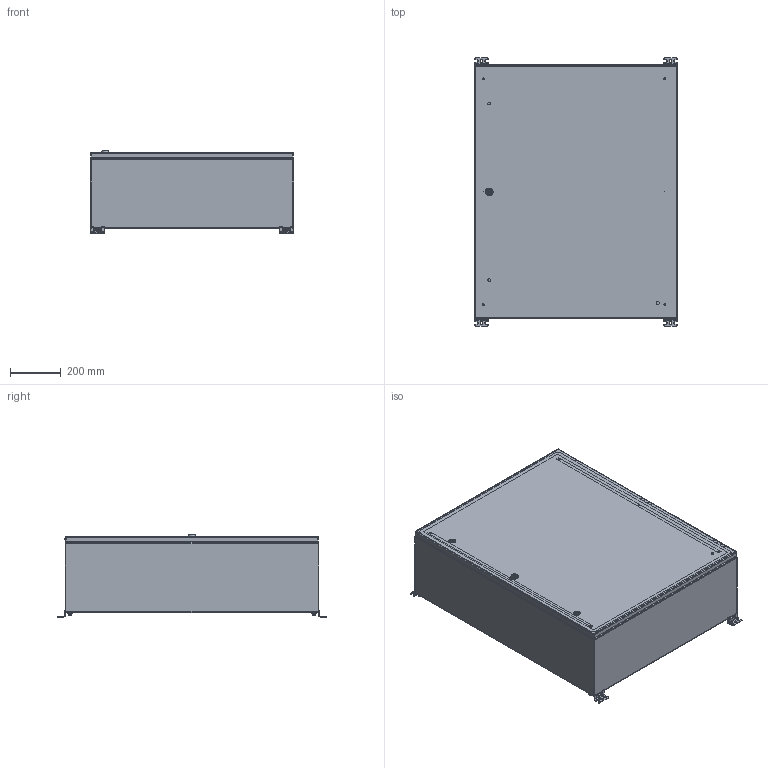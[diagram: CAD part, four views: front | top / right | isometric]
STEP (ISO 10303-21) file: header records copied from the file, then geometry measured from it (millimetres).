
FILE_DESCRIPTION(('STEP AP242'), '1');
FILE_NAME('400 ﾙﾌﾏ-1 (IP-56)', '', ('UNSPECIFIED'), ('UNSPECIFIED'), 'C3D Converter', 'C3D Toolkit', '');
FILE_SCHEMA(('AP242_MANAGED_MODEL_BASED_3D_ENGINEERING_MIM_LF { 1 0 10303 442 1 1 4 }'));
Length unit declared in the file: millimetre
Products named in the file (54): ЩМП-1-Ф СБ; 410-Ф; 420; 421; 411-Ф; 412; 490; 491; 401; 440-Ф; 441-Ф; 402; 450; 451; ЦИУЛ.210677.00.03-03; 452
Assembly tree (125 placements, depth 4):
  ЩМП-1-Ф СБ
    410-Ф
      420
        421
        (unnamed)  x6
        (unnamed)
      411-Ф
      412
    490  x2
      491
      (unnamed)
      (unnamed)
      (unnamed)
      (unnamed)
      (unnamed)
    490  x2
      491
      (unnamed)
      (unnamed)
      (unnamed)
      (unnamed)
      (unnamed)
    401
    (unnamed)  x6
    (unnamed)  x6
    (unnamed)  x6
    (unnamed)  x3
      (unnamed)
      (unnamed)
      (unnamed)
    (unnamed)  x6
    440-Ф
      441-Ф
      (unnamed)
      (unnamed)  x6
      (unnamed)  x2
      (unnamed)  x3
    402  x2
    (unnamed)  x6
    (unnamed)  x6
    (unnamed)  x2
    (unnamed)
      (unnamed)
      (unnamed)
      (unnamed)
      (unnamed)
      (unnamed)
    (unnamed)
    (unnamed)  x2
      (unnamed)
      (unnamed)
      (unnamed)
    (unnamed)  x2
    (unnamed)  x2
    450
      451
      (unnamed)  x3
      (unnamed)  x2
      (unnamed)  x2
      (unnamed)  x3
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Bounding box: 800 x 1056 x 323.1 mm (x, y, z)
Volume: 6290943.6 mm3; surface area: 7561977.8 mm2
Topology: 137 solids, 139 shells, 2760 faces, 6450 edges, 4041 vertices
Faces by surface type: plane 1492, cylinder 814, cone 266, torus 75, bspline 70, sphere 43
Full cylindrical faces by diameter (mm): 0.5 x6, 2.6 x4, 3.3 x1, 3.5 x136, 4 x5, 4.134 x5, 4.2 x7, 4.85 x2, 4.917 x6, 5 x18, 5.3 x2, 5.5 x15, 5.75 x3, 5.8 x1, 6 x25, 6.4 x6, 6.5 x4, 6.647 x10, 7 x9, 7.3 x6, 7.4 x1, 7.5 x9, 7.9 x4, 8 x21, 8.3 x2, 8.4 x10, 8.5 x23, 9 x14, 10 x16, 10.4 x1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
Entity records: 84509 total; most frequent: CARTESIAN_POINT 43808, DIRECTION 6736, ORIENTED_EDGE 6384, EDGE_CURVE 3192, AXIS2_PLACEMENT_3D 2562, VERTEX_POINT 2154, EDGE_LOOP 1998, LINE 1612
